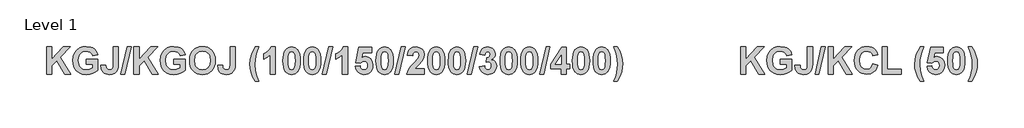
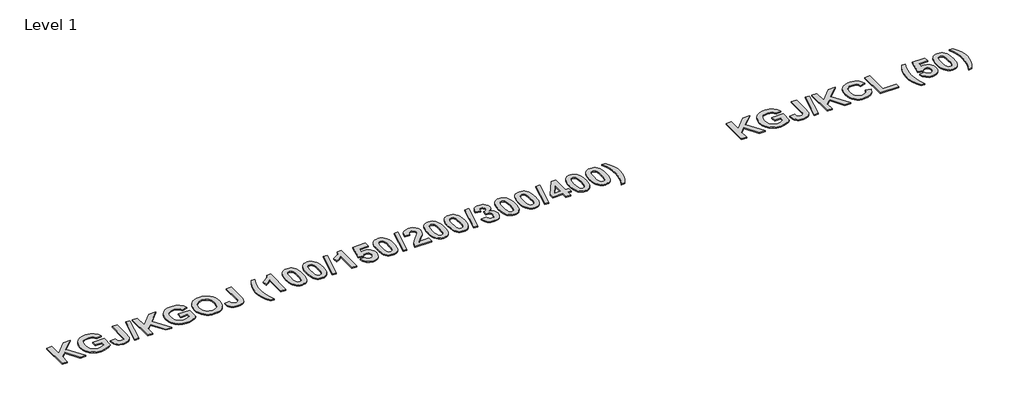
# One storey, part 8 of 42: 2 proxies.
"""IFC4 building model written with IfcOpenShell, lengths in millimetres."""

from ifc_helpers import new_model, si_unit, origin, origin_with_axes, place, context, project, spatial, polyline, outline, extrude, element, save

model = new_model("IFC4")

# Units and contexts
model_context = context("Model", 3, world=origin())
ifc_project = project(units=[si_unit("LENGTHUNIT", "METRE", prefix="MILLI")], contexts=[model_context])

# Site, building, storey
site = spatial("IfcSite", under=ifc_project)
building = spatial("IfcBuilding", under=site)
storey = spatial("IfcBuildingStorey", under=building, Name="Level 1", Elevation=0.0)

# Proxies
placement = place(None, origin())
element("IfcBuildingElementProxy", 1, Name="300mm Arial 2", ObjectType="300mm Arial 2", at=placement, inside=storey, context=model_context, shape_type="SweptSolid", body=[
    extrude(outline(polyline([(-16214.3228423, -1533.7239141), (-16214.3228423, -1278.6590641), (-16165.7390614, -1278.6590641), (-16165.7390614, -1394.9311857), (-16056.299034, -1278.6590641), (-15989.6228554, -1278.6590641), (-16086.157816, -1376.0796665), (-15985.574207, -1533.7239141), (-16042.381805, -1533.7239141), (-16117.7246216, -1408.0260329), (-16165.7390614, -1456.5465537), (-16165.7390614, -1533.7239141), (-16214.3228423, -1533.7239141)])), origin_with_axes(), (0.0, 0.0, 1.0), 10.0),
    extrude(outline(polyline([(-15841.8471884, -1440.6050006), (-15841.8471884, -1396.069868), (-15732.5336812, -1396.069868), (-15732.5336812, -1497.7921594), (-15752.0494318, -1512.7136429), (-15778.7135772, -1525.7215074), (-15809.1417004, -1534.7597987), (-15839.9493844, -1537.7725625), (-15876.7825959, -1533.5815788), (-15908.586627, -1521.0086276), (-15934.2386103, -1500.6467728), (-15952.6156785, -1473.0890781), (-15963.6703865, -1440.565463), (-15967.3552891, -1405.3058472), (-15963.188028, -1367.7846818), (-15950.6862445, -1334.6759105), (-15930.1504243, -1307.3712562), (-15901.8810531, -1287.262442), (-15874.394526, -1277.7734222), (-15840.8982864, -1274.6104157), (-15798.6958712, -1279.7186713), (-15781.479231, -1286.1039908), (-15766.8523025, -1295.0434381), (-15744.9405745, -1319.3827737), (-15732.5336812, -1351.5347355), (-15781.1174622, -1359.6320323), (-15789.2938342, -1342.8285599), (-15802.4361265, -1329.9946607), (-15820.006628, -1321.8578263), (-15841.4676276, -1319.1455482), (-15873.2716587, -1324.4435842), (-15886.4574423, -1331.0661292), (-15897.8324047, -1340.3376922), (-15906.9932625, -1352.2187357), (-15913.5367323, -1366.669722), (-15918.7715082, -1403.281523), (-15913.5683624, -1442.6372323), (-15907.0644301, -1458.0984038), (-15897.9589249, -1470.7484532), (-15886.7421129, -1480.5873805), (-15873.90426, -1487.6151858), (-15843.3654315, -1493.2374299), (-15809.932452, -1487.0695671), (-15781.1174622, -1472.108546), (-15781.1174622, -1440.6050006), (-15841.8471884, -1440.6050006)])), origin_with_axes(), (0.0, 0.0, 1.0), 10.0),
    extrude(outline(polyline([(-15586.7823384, -1278.6590641), (-15538.1985574, -1278.6590641), (-15538.1985574, -1439.9091391), (-15539.6219104, -1467.9017473), (-15543.8919692, -1488.6194403), (-15554.5829315, -1508.641272), (-15571.4733866, -1524.2981545), (-15594.6582247, -1534.4039605), (-15624.2323362, -1537.7725625), (-15658.2030268, -1532.3717288), (-15671.8672152, -1525.6206866), (-15683.317299, -1516.1692276), (-15692.3793128, -1504.1043344), (-15698.8792913, -1489.5129897), (-15704.1931423, -1452.7509458), (-15655.6093614, -1448.7022974), (-15653.3794417, -1467.3324061), (-15648.5874868, -1479.5732416), (-15637.1690331, -1489.8213828), (-15621.0060695, -1493.2374299), (-15605.0249788, -1490.7860999), (-15594.5317045, -1483.4321096), (-15588.7196799, -1468.3761983), (-15586.7823384, -1442.8191052), (-15586.7823384, -1278.6590641)])), origin_with_axes(), (0.0, 0.0, 1.0), 10.0),
    extrude(outline(polyline([(-15514.7923088, -1533.7239141), (-15454.0625826, -1278.6590641), (-15416.739105, -1278.6590641), (-15477.4688312, -1533.7239141), (-15514.7923088, -1533.7239141)])), origin_with_axes(), (0.0, 0.0, 1.0), 10.0),
    extrude(outline(polyline([(-15392.4472146, -1533.7239141), (-15392.4472146, -1278.6590641), (-15343.8634336, -1278.6590641), (-15343.8634336, -1394.9311857), (-15234.4234062, -1278.6590641), (-15167.7472277, -1278.6590641), (-15264.2821883, -1376.0796665), (-15163.6985793, -1533.7239141), (-15220.5061773, -1533.7239141), (-15295.8489938, -1408.0260329), (-15343.8634336, -1456.5465537), (-15343.8634336, -1533.7239141), (-15392.4472146, -1533.7239141)])), origin_with_axes(), (0.0, 0.0, 1.0), 10.0),
    extrude(outline(polyline([(-15019.9715606, -1440.6050006), (-15019.9715606, -1396.069868), (-14910.6580535, -1396.069868), (-14910.6580535, -1497.7921594), (-14930.173804, -1512.7136429), (-14956.8379494, -1525.7215074), (-14987.2660727, -1534.7597987), (-15018.0737567, -1537.7725625), (-15054.9069682, -1533.5815788), (-15086.7109993, -1521.0086276), (-15112.3629826, -1500.6467728), (-15130.7400508, -1473.0890781), (-15141.7947587, -1440.565463), (-15145.4796614, -1405.3058472), (-15141.3124002, -1367.7846818), (-15128.8106168, -1334.6759105), (-15108.2747966, -1307.3712562), (-15080.0054254, -1287.262442), (-15052.5188982, -1277.7734222), (-15019.0226586, -1274.6104157), (-14976.8202435, -1279.7186713), (-14959.6036033, -1286.1039908), (-14944.9766748, -1295.0434381), (-14923.0649468, -1319.3827737), (-14910.6580535, -1351.5347355), (-14959.2418344, -1359.6320323), (-14967.4182064, -1342.8285599), (-14980.5604987, -1329.9946607), (-14998.1310002, -1321.8578263), (-15019.5919998, -1319.1455482), (-15051.3960309, -1324.4435842), (-15064.5818146, -1331.0661292), (-15075.9567769, -1340.3376922), (-15085.1176347, -1352.2187357), (-15091.6611046, -1366.669722), (-15096.8958805, -1403.281523), (-15091.6927346, -1442.6372323), (-15085.1888024, -1458.0984038), (-15076.0832972, -1470.7484532), (-15064.8664851, -1480.5873805), (-15052.0286322, -1487.6151858), (-15021.4898038, -1493.2374299), (-14988.0568243, -1487.0695671), (-14959.2418344, -1472.108546), (-14959.2418344, -1440.6050006), (-15019.9715606, -1440.6050006)])), origin_with_axes(), (0.0, 0.0, 1.0), 10.0),
    extrude(outline(polyline([(-14870.1715693, -1407.7729924), (-14867.3090484, -1371.999388), (-14858.7214856, -1342.4885367), (-14848.6235871, -1324.0561159), (-14835.4101271, -1307.6005742), (-14819.9351175, -1294.1340737), (-14803.0525699, -1284.6687766), (-14777.8434075, -1277.1250059), (-14749.0284176, -1274.6104157), (-14722.7359255, -1276.7909133), (-14699.2110641, -1283.3324063), (-14678.4538335, -1294.2348946), (-14660.4642336, -1309.4983782), (-14645.9341722, -1328.6444523), (-14635.5555569, -1351.1947123), (-14629.3283877, -1377.1491581), (-14627.2526646, -1406.5077897), (-14629.3125726, -1435.6667566), (-14635.4922967, -1461.4650289), (-14645.7918369, -1483.9026068), (-14660.2111931, -1502.9794902), (-14678.0821802, -1518.2014593), (-14698.7366131, -1529.0742944), (-14722.1744918, -1535.5979955), (-14748.3958163, -1537.7725625), (-14774.8939039, -1535.6078799), (-14798.5294705, -1529.113832), (-14819.3025162, -1518.2904189), (-14837.2130409, -1503.1376405), (-14851.6323971, -1484.1892543), (-14861.9319372, -1461.9790175), (-14868.1116613, -1436.5069302), (-14870.1715693, -1407.7729924)]), holes=[polyline([(-14821.5877884, -1406.0017087), (-14816.4241802, -1443.7521921), (-14809.9696699, -1458.7250745), (-14800.9333555, -1471.0963839), (-14777.4875693, -1487.7021684), (-14748.4590764, -1493.2374299), (-14719.4938438, -1487.741706), (-14696.2378379, -1471.2545343), (-14687.3122288, -1458.8891554), (-14680.9367936, -1443.7759147), (-14675.8364455, -1405.3058472), (-14680.8023659, -1367.4130285), (-14687.0097663, -1352.5943427), (-14695.7001268, -1340.5274726), (-14718.8217049, -1324.4910293), (-14748.4590764, -1319.1455482), (-14778.1597082, -1324.5542894), (-14801.4710666, -1340.7805132), (-14810.2721324, -1352.9699497), (-14816.5586079, -1367.9032945), (-14821.5877884, -1406.0017087)])]), origin_with_axes(), (0.0, 0.0, 1.0), 10.0),
    extrude(outline(polyline([(-14489.5986186, -1278.6590641), (-14441.0148376, -1278.6590641), (-14441.0148376, -1439.9091391), (-14442.4381906, -1467.9017473), (-14446.7082495, -1488.6194403), (-14457.3992117, -1508.641272), (-14474.2896668, -1524.2981545), (-14497.4745049, -1534.4039605), (-14527.0486164, -1537.7725625), (-14561.019307, -1532.3717288), (-14574.6834954, -1525.6206866), (-14586.1335792, -1516.1692276), (-14595.195593, -1504.1043344), (-14601.6955715, -1489.5129897), (-14607.0094225, -1452.7509458), (-14558.4256416, -1448.7022974), (-14556.195722, -1467.3324061), (-14551.403767, -1479.5732416), (-14539.9853133, -1489.8213828), (-14523.8223497, -1493.2374299), (-14507.841259, -1490.7860999), (-14497.3479847, -1483.4321096), (-14491.5359601, -1468.3761983), (-14489.5986186, -1442.8191052), (-14489.5986186, -1278.6590641)])), origin_with_axes(), (0.0, 0.0, 1.0), 10.0),
    extrude(outline(polyline([(-14218.3391749, -1602.5509371), (-14250.7283622, -1602.5509371), (-14273.3992118, -1562.8789271), (-14289.9180137, -1521.672859), (-14300.0000971, -1480.3719007), (-14303.3607916, -1440.4152202), (-14299.2488831, -1393.0175667), (-14286.9131574, -1348.2452087), (-14270.7185638, -1311.9655233), (-14250.7283622, -1278.6590641), (-14218.3391749, -1278.6590641), (-14235.9017689, -1325.8985672), (-14246.9643844, -1365.5152246), (-14252.8238541, -1402.3958812), (-14254.7770106, -1441.4273823), (-14250.0957609, -1498.07683), (-14237.2539542, -1553.1447744), (-14218.3391749, -1602.5509371)])), origin_with_axes(), (0.0, 0.0, 1.0), 10.0),
    extrude(outline(polyline([(-14064.4905353, -1533.7239141), (-14113.0743162, -1533.7239141), (-14113.0743162, -1351.4082152), (-14141.1301845, -1375.2889149), (-14173.8040424, -1392.0212196), (-14173.8040424, -1343.4374387), (-14154.3357369, -1334.3517023), (-14133.2542981, -1319.6199992), (-14114.7981548, -1300.6024222), (-14103.2057357, -1278.6590641), (-14064.4905353, -1278.6590641), (-14064.4905353, -1533.7239141)])), origin_with_axes(), (0.0, 0.0, 1.0), 10.0),
    extrude(outline(polyline([(-13910.6418956, -1278.6590641), (-13893.5102612, -1280.3038275), (-13878.3634135, -1285.2381178), (-13865.2013524, -1293.4619348), (-13854.0240779, -1304.9752788), (-13843.3686995, -1323.1032602), (-13835.757715, -1346.3632198), (-13831.1911242, -1374.7551575), (-13829.6689273, -1408.2790734), (-13831.1990318, -1441.7713593), (-13835.789345, -1470.1949271), (-13843.4398672, -1493.5497768), (-13854.1505982, -1511.8359086), (-13865.2725201, -1523.1831947), (-13878.3950436, -1531.288399), (-13893.5181687, -1536.1515216), (-13910.6418956, -1537.7725625), (-13927.9494722, -1535.9933713), (-13943.4976264, -1530.6557977), (-13957.2863581, -1521.7598417), (-13969.3156675, -1509.3055033), (-13979.0715659, -1492.2845742), (-13986.0400647, -1469.688846), (-13990.2211641, -1441.5183187), (-13991.6148638, -1407.7729924), (-13990.0847594, -1374.4467644), (-13985.4944461, -1346.1418093), (-13977.843924, -1322.8581272), (-13967.133193, -1304.595718), (-13956.0112711, -1293.2484319), (-13942.8887476, -1285.1432276), (-13927.7656224, -1280.2801049), (-13910.6418956, -1278.6590641)]), holes=[polyline([(-13910.6418956, -1323.1941966), (-13926.8364892, -1328.5396777), (-13933.1625024, -1336.0122808), (-13937.8437521, -1347.7391276), (-13941.7342502, -1371.8886828), (-13943.0310829, -1408.2790734), (-13941.8765855, -1444.1871055), (-13938.4130933, -1466.7630649), (-13933.1862249, -1480.0160625), (-13926.741599, -1487.955209), (-13910.6418956, -1493.2374299), (-13894.4473019, -1487.8919488), (-13888.1212888, -1480.4193458), (-13883.4400391, -1468.6924989), (-13879.549541, -1444.669464), (-13878.2527083, -1408.2790734), (-13879.4072057, -1372.4105789), (-13882.8706979, -1349.826712), (-13888.0975662, -1336.5341768), (-13894.5421921, -1328.5396777), (-13910.6418956, -1323.1941966)])]), origin_with_axes(), (0.0, 0.0, 1.0), 10.0),
    extrude(outline(polyline([(-13716.3067718, -1278.6590641), (-13699.1751374, -1280.3038275), (-13684.0282897, -1285.2381178), (-13670.8662286, -1293.4619348), (-13659.6889541, -1304.9752788), (-13649.0335757, -1323.1032602), (-13641.4225912, -1346.3632198), (-13636.8560004, -1374.7551575), (-13635.3338035, -1408.2790734), (-13636.863908, -1441.7713593), (-13641.4542212, -1470.1949271), (-13649.1047434, -1493.5497768), (-13659.8154744, -1511.8359086), (-13670.9373963, -1523.1831947), (-13684.0599198, -1531.288399), (-13699.1830449, -1536.1515216), (-13716.3067718, -1537.7725625), (-13733.6143484, -1535.9933713), (-13749.1625025, -1530.6557977), (-13762.9512343, -1521.7598417), (-13774.9805437, -1509.3055033), (-13784.7364421, -1492.2845742), (-13791.7049409, -1469.688846), (-13795.8860403, -1441.5183187), (-13797.27974, -1407.7729924), (-13795.7496356, -1374.4467644), (-13791.1593223, -1346.1418093), (-13783.5088002, -1322.8581272), (-13772.7980692, -1304.595718), (-13761.6761473, -1293.2484319), (-13748.5536238, -1285.1432276), (-13733.4304986, -1280.2801049), (-13716.3067718, -1278.6590641)]), holes=[polyline([(-13716.3067718, -1323.1941966), (-13732.5013654, -1328.5396777), (-13738.8273786, -1336.0122808), (-13743.5086283, -1347.7391276), (-13747.3991264, -1371.8886828), (-13748.6959591, -1408.2790734), (-13747.5414617, -1444.1871055), (-13744.0779695, -1466.7630649), (-13738.8511011, -1480.0160625), (-13732.4064752, -1487.955209), (-13716.3067718, -1493.2374299), (-13700.1121781, -1487.8919488), (-13693.786165, -1480.4193458), (-13689.1049153, -1468.6924989), (-13685.2144172, -1444.669464), (-13683.9175845, -1408.2790734), (-13685.0720819, -1372.4105789), (-13688.5355741, -1349.826712), (-13693.7624424, -1336.5341768), (-13700.2070683, -1328.5396777), (-13716.3067718, -1323.1941966)])]), origin_with_axes(), (0.0, 0.0, 1.0), 10.0),
    extrude(outline(polyline([(-13620.0248517, -1533.7239141), (-13559.2951255, -1278.6590641), (-13521.971648, -1278.6590641), (-13582.7013742, -1533.7239141), (-13620.0248517, -1533.7239141)])), origin_with_axes(), (0.0, 0.0, 1.0), 10.0),
    extrude(outline(polyline([(-13384.317602, -1533.7239141), (-13432.9013829, -1533.7239141), (-13432.9013829, -1351.4082152), (-13460.9572512, -1375.2889149), (-13493.6311091, -1392.0212196), (-13493.6311091, -1343.4374387), (-13474.1628036, -1334.3517023), (-13453.0813648, -1319.6199992), (-13434.6252215, -1300.6024222), (-13423.0328024, -1278.6590641), (-13384.317602, -1278.6590641), (-13384.317602, -1533.7239141)])), origin_with_axes(), (0.0, 0.0, 1.0), 10.0),
    extrude(outline(polyline([(-13311.4419305, -1461.9236649), (-13266.906798, -1456.7995942), (-13262.7632594, -1471.8713205), (-13254.5078122, -1483.4321096), (-13243.4056592, -1490.7860999), (-13230.7220028, -1493.2374299), (-13216.5280108, -1490.635857), (-13204.6904587, -1482.8311383), (-13196.6959596, -1469.7916437), (-13194.0311266, -1451.4857432), (-13196.5061792, -1434.3264325), (-13203.9313371, -1422.0697821), (-13215.3260683, -1414.7157918), (-13229.7098407, -1412.2644617), (-13248.5297298, -1417.3252722), (-13265.2620346, -1432.5077038), (-13307.3932821, -1426.2449507), (-13279.0527432, -1282.7077125), (-13157.5932909, -1282.7077125), (-13157.5932909, -1331.2914934), (-13239.7682016, -1331.2914934), (-13249.573522, -1377.6611698), (-13234.0906048, -1370.2122893), (-13218.2597569, -1367.7293292), (-13190.1406285, -1373.4780936), (-13166.6394896, -1390.7243869), (-13150.7453816, -1417.1433993), (-13145.4473456, -1450.410321), (-13149.8597398, -1479.3360161), (-13163.0969223, -1505.0038144), (-13176.314336, -1519.3401417), (-13191.8644671, -1529.5803755), (-13209.7473155, -1535.7245157), (-13229.9628812, -1537.7725625), (-13260.9682531, -1532.6326768), (-13285.663427, -1517.2130198), (-13302.8780902, -1493.1109097), (-13311.4419305, -1461.9236649)])), origin_with_axes(), (0.0, 0.0, 1.0), 10.0),
    extrude(outline(polyline([(-13036.1338385, -1278.6590641), (-13019.0022041, -1280.3038275), (-13003.8553564, -1285.2381178), (-12990.6932953, -1293.4619348), (-12979.5160208, -1304.9752788), (-12968.8606424, -1323.1032602), (-12961.2496579, -1346.3632198), (-12956.6830671, -1374.7551575), (-12955.1608702, -1408.2790734), (-12956.6909747, -1441.7713593), (-12961.2812879, -1470.1949271), (-12968.9318101, -1493.5497768), (-12979.6425411, -1511.8359086), (-12990.764463, -1523.1831947), (-13003.8869865, -1531.288399), (-13019.0101116, -1536.1515216), (-13036.1338385, -1537.7725625), (-13053.4414151, -1535.9933713), (-13068.9895692, -1530.6557977), (-13082.778301, -1521.7598417), (-13094.8076104, -1509.3055033), (-13104.5635088, -1492.2845742), (-13111.5320076, -1469.688846), (-13115.713107, -1441.5183187), (-13117.1068067, -1407.7729924), (-13115.5767023, -1374.4467644), (-13110.986389, -1346.1418093), (-13103.3358669, -1322.8581272), (-13092.6251359, -1304.595718), (-13081.503214, -1293.2484319), (-13068.3806905, -1285.1432276), (-13053.2575653, -1280.2801049), (-13036.1338385, -1278.6590641)]), holes=[polyline([(-13036.1338385, -1323.1941966), (-13052.3284321, -1328.5396777), (-13058.6544453, -1336.0122808), (-13063.335695, -1347.7391276), (-13067.2261931, -1371.8886828), (-13068.5230258, -1408.2790734), (-13067.3685284, -1444.1871055), (-13063.9050362, -1466.7630649), (-13058.6781678, -1480.0160625), (-13052.2335419, -1487.955209), (-13036.1338385, -1493.2374299), (-13019.9392448, -1487.8919488), (-13013.6132317, -1480.4193458), (-13008.931982, -1468.6924989), (-13005.0414839, -1444.669464), (-13003.7446512, -1408.2790734), (-13004.8991486, -1372.4105789), (-13008.3626408, -1349.826712), (-13013.5895091, -1336.5341768), (-13020.034135, -1328.5396777), (-13036.1338385, -1323.1941966)])]), origin_with_axes(), (0.0, 0.0, 1.0), 10.0),
    extrude(outline(polyline([(-12939.8519184, -1533.7239141), (-12879.1221922, -1278.6590641), (-12841.7987147, -1278.6590641), (-12902.5284409, -1533.7239141), (-12939.8519184, -1533.7239141)])), origin_with_axes(), (0.0, 0.0, 1.0), 10.0),
    extrude(outline(polyline([(-12663.6581845, -1485.1401331), (-12663.6581845, -1533.7239141), (-12825.604121, -1533.7239141), (-12820.4326053, -1509.2185207), (-12810.1053888, -1486.057405), (-12790.921754, -1459.8756181), (-12759.180983, -1426.3082109), (-12721.6044649, -1385.5686862), (-12714.5825903, -1370.8607057), (-12712.2419655, -1356.3425055), (-12714.2109371, -1342.1959586), (-12720.1178518, -1331.7659444), (-12729.4882588, -1325.3371336), (-12741.847707, -1323.1941966), (-12754.1201725, -1325.3055035), (-12763.6091922, -1331.6394242), (-12769.9984655, -1342.86019), (-12772.9716917, -1359.6320323), (-12821.5554726, -1355.2038231), (-12812.9520947, -1320.0549126), (-12805.3292489, -1306.8157532), (-12795.4922985, -1296.4667911), (-12770.8682923, -1283.1109958), (-12740.7722848, -1278.6590641), (-12708.636138, -1283.6487069), (-12684.2177272, -1298.6176356), (-12668.7980702, -1321.0038146), (-12663.6581845, -1348.2452087), (-12669.2883362, -1380.3813554), (-12687.1276933, -1412.3277218), (-12717.3344061, -1444.2108281), (-12745.0739737, -1471.8555055), (-12754.1834326, -1485.1401331), (-12663.6581845, -1485.1401331)])), origin_with_axes(), (0.0, 0.0, 1.0), 10.0),
    extrude(outline(polyline([(-12550.296029, -1278.6590641), (-12533.1643946, -1280.3038275), (-12518.0175469, -1285.2381178), (-12504.8554858, -1293.4619348), (-12493.6782113, -1304.9752788), (-12483.0228329, -1323.1032602), (-12475.4118484, -1346.3632198), (-12470.8452576, -1374.7551575), (-12469.3230607, -1408.2790734), (-12470.8531652, -1441.7713593), (-12475.4434784, -1470.1949271), (-12483.0940006, -1493.5497768), (-12493.8047316, -1511.8359086), (-12504.9266534, -1523.1831947), (-12518.049177, -1531.288399), (-12533.1723021, -1536.1515216), (-12550.296029, -1537.7725625), (-12567.6036056, -1535.9933713), (-12583.1517597, -1530.6557977), (-12596.9404915, -1521.7598417), (-12608.9698009, -1509.3055033), (-12618.7256993, -1492.2845742), (-12625.6941981, -1469.688846), (-12629.8752975, -1441.5183187), (-12631.2689972, -1407.7729924), (-12629.7388928, -1374.4467644), (-12625.1485795, -1346.1418093), (-12617.4980574, -1322.8581272), (-12606.7873264, -1304.595718), (-12595.6654045, -1293.2484319), (-12582.542881, -1285.1432276), (-12567.4197558, -1280.2801049), (-12550.296029, -1278.6590641)]), holes=[polyline([(-12550.296029, -1323.1941966), (-12566.4906226, -1328.5396777), (-12572.8166358, -1336.0122808), (-12577.4978855, -1347.7391276), (-12581.3883836, -1371.8886828), (-12582.6852163, -1408.2790734), (-12581.5307189, -1444.1871055), (-12578.0672267, -1466.7630649), (-12572.8403583, -1480.0160625), (-12566.3957324, -1487.955209), (-12550.296029, -1493.2374299), (-12534.1014353, -1487.8919488), (-12527.7754222, -1480.4193458), (-12523.0941724, -1468.6924989), (-12519.2036744, -1444.669464), (-12517.9068417, -1408.2790734), (-12519.0613391, -1372.4105789), (-12522.5248313, -1349.826712), (-12527.7516996, -1336.5341768), (-12534.1963255, -1328.5396777), (-12550.296029, -1323.1941966)])]), origin_with_axes(), (0.0, 0.0, 1.0), 10.0),
    extrude(outline(polyline([(-12355.9609052, -1278.6590641), (-12338.8292708, -1280.3038275), (-12323.6824231, -1285.2381178), (-12310.520362, -1293.4619348), (-12299.3430875, -1304.9752788), (-12288.6877091, -1323.1032602), (-12281.0767246, -1346.3632198), (-12276.5101338, -1374.7551575), (-12274.9879369, -1408.2790734), (-12276.5180413, -1441.7713593), (-12281.1083546, -1470.1949271), (-12288.7588768, -1493.5497768), (-12299.4696078, -1511.8359086), (-12310.5915296, -1523.1831947), (-12323.7140532, -1531.288399), (-12338.8371783, -1536.1515216), (-12355.9609052, -1537.7725625), (-12373.2684818, -1535.9933713), (-12388.8166359, -1530.6557977), (-12402.6053677, -1521.7598417), (-12414.6346771, -1509.3055033), (-12424.3905755, -1492.2845742), (-12431.3590743, -1469.688846), (-12435.5401736, -1441.5183187), (-12436.9338734, -1407.7729924), (-12435.403769, -1374.4467644), (-12430.8134557, -1346.1418093), (-12423.1629336, -1322.8581272), (-12412.4522026, -1304.595718), (-12401.3302807, -1293.2484319), (-12388.2077572, -1285.1432276), (-12373.084632, -1280.2801049), (-12355.9609052, -1278.6590641)]), holes=[polyline([(-12355.9609052, -1323.1941966), (-12372.1554988, -1328.5396777), (-12378.481512, -1336.0122808), (-12383.1627617, -1347.7391276), (-12387.0532598, -1371.8886828), (-12388.3500925, -1408.2790734), (-12387.1955951, -1444.1871055), (-12383.7321029, -1466.7630649), (-12378.5052345, -1480.0160625), (-12372.0606086, -1487.955209), (-12355.9609052, -1493.2374299), (-12339.7663115, -1487.8919488), (-12333.4402984, -1480.4193458), (-12328.7590486, -1468.6924989), (-12324.8685506, -1444.669464), (-12323.5717179, -1408.2790734), (-12324.7262153, -1372.4105789), (-12328.1897075, -1349.826712), (-12333.4165758, -1336.5341768), (-12339.8612017, -1328.5396777), (-12355.9609052, -1323.1941966)])]), origin_with_axes(), (0.0, 0.0, 1.0), 10.0),
    extrude(outline(polyline([(-12259.6789851, -1533.7239141), (-12198.9492589, -1278.6590641), (-12161.6257814, -1278.6590641), (-12222.3555076, -1533.7239141), (-12259.6789851, -1533.7239141)])), origin_with_axes(), (0.0, 0.0, 1.0), 10.0),
    extrude(outline(polyline([(-12145.4311877, -1462.4297459), (-12096.8474068, -1456.7995942), (-12093.099244, -1472.4248467), (-12085.903404, -1483.8749305), (-12076.0506386, -1490.8968051), (-12064.3316992, -1493.2374299), (-12051.7587481, -1490.5567819), (-12041.3682715, -1482.5148377), (-12034.393842, -1469.933979), (-12032.0690322, -1453.6365877), (-12034.1961541, -1438.2169306), (-12040.5775198, -1426.371471), (-12050.027002, -1418.8277003), (-12061.358473, -1416.3131101), (-12080.6528131, -1419.9189376), (-12076.4143843, -1379.8752744), (-12062.5841381, -1378.1356208), (-12052.4704246, -1371.9044978), (-12046.2788392, -1362.0359173), (-12044.2149774, -1349.383891), (-12045.7569431, -1338.6375762), (-12050.3828402, -1330.3109614), (-12057.5707727, -1324.9733878), (-12066.7988443, -1323.1941966), (-12076.1850663, -1325.2580584), (-12084.1004903, -1331.4496438), (-12089.8650698, -1341.6108024), (-12092.7987584, -1355.5833839), (-12141.3825393, -1348.3084688), (-12135.8235553, -1326.5707061), (-12128.0030215, -1309.6881586), (-12117.2804292, -1296.7751842), (-12103.0152696, -1286.9461413), (-12086.0220168, -1280.7308334), (-12067.115145, -1278.6590641), (-12036.4656113, -1284.399921), (-12023.6791572, -1291.5759922), (-12012.5849117, -1301.6224918), (-11999.8696253, -1321.6443234), (-11995.6311965, -1344.1333001), (-11997.9046074, -1360.078807), (-12004.7248404, -1374.3241979), (-12016.0918952, -1386.8694727), (-12032.005772, -1397.7146315), (-12012.1420908, -1405.2663097), (-11996.7066187, -1418.5588448), (-11986.7905931, -1436.4219244), (-11983.4852512, -1457.6852361), (-11989.3447209, -1488.4533825), (-12006.9231299, -1514.3346838), (-12019.3596764, -1524.5887557), (-12033.2314371, -1531.9130928), (-12065.2806012, -1537.7725625), (-12095.5426666, -1532.5615092), (-12120.1587652, -1516.9283492), (-12137.3734285, -1492.8815917), (-12145.4311877, -1462.4297459)])), origin_with_axes(), (0.0, 0.0, 1.0), 10.0),
    extrude(outline(polyline([(-11870.1230957, -1278.6590641), (-11852.9914613, -1280.3038275), (-11837.8446136, -1285.2381178), (-11824.6825525, -1293.4619348), (-11813.505278, -1304.9752788), (-11802.8498996, -1323.1032602), (-11795.2389151, -1346.3632198), (-11790.6723243, -1374.7551575), (-11789.1501274, -1408.2790734), (-11790.6802318, -1441.7713593), (-11795.2705451, -1470.1949271), (-11802.9210673, -1493.5497768), (-11813.6317983, -1511.8359086), (-11824.7537201, -1523.1831947), (-11837.8762437, -1531.288399), (-11852.9993688, -1536.1515216), (-11870.1230957, -1537.7725625), (-11887.4306723, -1535.9933713), (-11902.9788264, -1530.6557977), (-11916.7675582, -1521.7598417), (-11928.7968676, -1509.3055033), (-11938.552766, -1492.2845742), (-11945.5212648, -1469.688846), (-11949.7023641, -1441.5183187), (-11951.0960639, -1407.7729924), (-11949.5659595, -1374.4467644), (-11944.9756462, -1346.1418093), (-11937.3251241, -1322.8581272), (-11926.614393, -1304.595718), (-11915.4924712, -1293.2484319), (-11902.3699477, -1285.1432276), (-11887.2468225, -1280.2801049), (-11870.1230957, -1278.6590641)]), holes=[polyline([(-11870.1230957, -1323.1941966), (-11886.3176893, -1328.5396777), (-11892.6437025, -1336.0122808), (-11897.3249522, -1347.7391276), (-11901.2154503, -1371.8886828), (-11902.512283, -1408.2790734), (-11901.3577856, -1444.1871055), (-11897.8942934, -1466.7630649), (-11892.667425, -1480.0160625), (-11886.2227991, -1487.955209), (-11870.1230957, -1493.2374299), (-11853.928502, -1487.8919488), (-11847.6024889, -1480.4193458), (-11842.9212391, -1468.6924989), (-11839.0307411, -1444.669464), (-11837.7339084, -1408.2790734), (-11838.8884058, -1372.4105789), (-11842.351898, -1349.826712), (-11847.5787663, -1336.5341768), (-11854.0233922, -1328.5396777), (-11870.1230957, -1323.1941966)])]), origin_with_axes(), (0.0, 0.0, 1.0), 10.0),
    extrude(outline(polyline([(-11675.7879719, -1278.6590641), (-11658.6563375, -1280.3038275), (-11643.5094898, -1285.2381178), (-11630.3474287, -1293.4619348), (-11619.1701542, -1304.9752788), (-11608.5147758, -1323.1032602), (-11600.9037913, -1346.3632198), (-11596.3372005, -1374.7551575), (-11594.8150036, -1408.2790734), (-11596.345108, -1441.7713593), (-11600.9354213, -1470.1949271), (-11608.5859435, -1493.5497768), (-11619.2966745, -1511.8359086), (-11630.4185963, -1523.1831947), (-11643.5411199, -1531.288399), (-11658.664245, -1536.1515216), (-11675.7879719, -1537.7725625), (-11693.0955485, -1535.9933713), (-11708.6437026, -1530.6557977), (-11722.4324344, -1521.7598417), (-11734.4617438, -1509.3055033), (-11744.2176422, -1492.2845742), (-11751.186141, -1469.688846), (-11755.3672403, -1441.5183187), (-11756.7609401, -1407.7729924), (-11755.2308357, -1374.4467644), (-11750.6405224, -1346.1418093), (-11742.9900003, -1322.8581272), (-11732.2792692, -1304.595718), (-11721.1573474, -1293.2484319), (-11708.0348239, -1285.1432276), (-11692.9116987, -1280.2801049), (-11675.7879719, -1278.6590641)]), holes=[polyline([(-11675.7879719, -1323.1941966), (-11691.9825655, -1328.5396777), (-11698.3085787, -1336.0122808), (-11702.9898284, -1347.7391276), (-11706.8803265, -1371.8886828), (-11708.1771592, -1408.2790734), (-11707.0226618, -1444.1871055), (-11703.5591696, -1466.7630649), (-11698.3323012, -1480.0160625), (-11691.8876753, -1487.955209), (-11675.7879719, -1493.2374299), (-11659.5933782, -1487.8919488), (-11653.2673651, -1480.4193458), (-11648.5861153, -1468.6924989), (-11644.6956173, -1444.669464), (-11643.3987846, -1408.2790734), (-11644.553282, -1372.4105789), (-11648.0167742, -1349.826712), (-11653.2436425, -1336.5341768), (-11659.6882684, -1328.5396777), (-11675.7879719, -1323.1941966)])]), origin_with_axes(), (0.0, 0.0, 1.0), 10.0),
    extrude(outline(polyline([(-11579.5060518, -1533.7239141), (-11518.7763256, -1278.6590641), (-11481.4528481, -1278.6590641), (-11542.1825743, -1533.7239141), (-11579.5060518, -1533.7239141)])), origin_with_axes(), (0.0, 0.0, 1.0), 10.0),
    extrude(outline(polyline([(-11376.1879893, -1533.7239141), (-11376.1879893, -1481.0914847), (-11473.3555512, -1481.0914847), (-11473.3555512, -1440.794781), (-11369.7354559, -1282.7077125), (-11327.6042084, -1282.7077125), (-11327.6042084, -1440.6050006), (-11295.2150211, -1440.6050006), (-11295.2150211, -1481.0914847), (-11327.6042084, -1481.0914847), (-11327.6042084, -1533.7239141), (-11376.1879893, -1533.7239141)]), holes=[polyline([(-11376.1879893, -1440.6050006), (-11376.1879893, -1357.7342284), (-11430.4651821, -1440.6050006), (-11376.1879893, -1440.6050006)])]), origin_with_axes(), (0.0, 0.0, 1.0), 10.0),
    extrude(outline(polyline([(-11189.9501624, -1278.6590641), (-11172.818528, -1280.3038275), (-11157.6716803, -1285.2381178), (-11144.5096192, -1293.4619348), (-11133.3323447, -1304.9752788), (-11122.6769663, -1323.1032602), (-11115.0659818, -1346.3632198), (-11110.499391, -1374.7551575), (-11108.9771941, -1408.2790734), (-11110.5072985, -1441.7713593), (-11115.0976118, -1470.1949271), (-11122.748134, -1493.5497768), (-11133.458865, -1511.8359086), (-11144.5807868, -1523.1831947), (-11157.7033104, -1531.288399), (-11172.8264355, -1536.1515216), (-11189.9501624, -1537.7725625), (-11207.2577389, -1535.9933713), (-11222.8058931, -1530.6557977), (-11236.5946249, -1521.7598417), (-11248.6239343, -1509.3055033), (-11258.3798327, -1492.2845742), (-11265.3483315, -1469.688846), (-11269.5294308, -1441.5183187), (-11270.9231306, -1407.7729924), (-11269.3930262, -1374.4467644), (-11264.8027129, -1346.1418093), (-11257.1521907, -1322.8581272), (-11246.4414597, -1304.595718), (-11235.3195379, -1293.2484319), (-11222.1970144, -1285.1432276), (-11207.0738892, -1280.2801049), (-11189.9501624, -1278.6590641)]), holes=[polyline([(-11189.9501624, -1323.1941966), (-11206.144756, -1328.5396777), (-11212.4707692, -1336.0122808), (-11217.1520189, -1347.7391276), (-11221.042517, -1371.8886828), (-11222.3393497, -1408.2790734), (-11221.1848523, -1444.1871055), (-11217.7213601, -1466.7630649), (-11212.4944917, -1480.0160625), (-11206.0498658, -1487.955209), (-11189.9501624, -1493.2374299), (-11173.7555687, -1487.8919488), (-11167.4295556, -1480.4193458), (-11162.7483058, -1468.6924989), (-11158.8578078, -1444.669464), (-11157.5609751, -1408.2790734), (-11158.7154725, -1372.4105789), (-11162.1789647, -1349.826712), (-11167.405833, -1336.5341768), (-11173.8504589, -1328.5396777), (-11189.9501624, -1323.1941966)])]), origin_with_axes(), (0.0, 0.0, 1.0), 10.0),
    extrude(outline(polyline([(-10995.6150386, -1278.6590641), (-10978.4834042, -1280.3038275), (-10963.3365565, -1285.2381178), (-10950.1744954, -1293.4619348), (-10938.9972209, -1304.9752788), (-10928.3418425, -1323.1032602), (-10920.730858, -1346.3632198), (-10916.1642672, -1374.7551575), (-10914.6420703, -1408.2790734), (-10916.1721747, -1441.7713593), (-10920.762488, -1470.1949271), (-10928.4130102, -1493.5497768), (-10939.1237412, -1511.8359086), (-10950.245663, -1523.1831947), (-10963.3681866, -1531.288399), (-10978.4913117, -1536.1515216), (-10995.6150386, -1537.7725625), (-11012.9226151, -1535.9933713), (-11028.4707693, -1530.6557977), (-11042.2595011, -1521.7598417), (-11054.2888105, -1509.3055033), (-11064.0447089, -1492.2845742), (-11071.0132077, -1469.688846), (-11075.194307, -1441.5183187), (-11076.5880068, -1407.7729924), (-11075.0579024, -1374.4467644), (-11070.4675891, -1346.1418093), (-11062.8170669, -1322.8581272), (-11052.1063359, -1304.595718), (-11040.9844141, -1293.2484319), (-11027.8618906, -1285.1432276), (-11012.7387654, -1280.2801049), (-10995.6150386, -1278.6590641)]), holes=[polyline([(-10995.6150386, -1323.1941966), (-11011.8096322, -1328.5396777), (-11018.1356454, -1336.0122808), (-11022.8168951, -1347.7391276), (-11026.7073932, -1371.8886828), (-11028.0042259, -1408.2790734), (-11026.8497285, -1444.1871055), (-11023.3862363, -1466.7630649), (-11018.1593679, -1480.0160625), (-11011.714742, -1487.955209), (-10995.6150386, -1493.2374299), (-10979.4204449, -1487.8919488), (-10973.0944318, -1480.4193458), (-10968.413182, -1468.6924989), (-10964.522684, -1444.669464), (-10963.2258513, -1408.2790734), (-10964.3803487, -1372.4105789), (-10967.8438409, -1349.826712), (-10973.0707092, -1336.5341768), (-10979.5153351, -1328.5396777), (-10995.6150386, -1323.1941966)])]), origin_with_axes(), (0.0, 0.0, 1.0), 10.0),
    extrude(outline(polyline([(-10882.252883, -1602.5509371), (-10864.2553756, -1556.5608215), (-10854.5765755, -1519.6485348), (-10847.9658918, -1479.9528023), (-10845.8150473, -1441.4273823), (-10847.7602963, -1402.3958812), (-10853.5960435, -1365.5152246), (-10864.6507514, -1325.8985672), (-10882.252883, -1278.6590641), (-10849.8636957, -1278.6590641), (-10827.6672971, -1315.9983567), (-10811.0536051, -1355.5201238), (-10800.686851, -1396.4177988), (-10797.2312663, -1437.8848149), (-10799.9988971, -1474.3859108), (-10808.3017893, -1513.4174119), (-10825.0182791, -1558.2846601), (-10849.8636957, -1602.5509371), (-10882.252883, -1602.5509371)])), origin_with_axes(), (0.0, 0.0, 1.0), 10.0),
])
element("IfcBuildingElementProxy", 2, Name="300mm Arial 2", ObjectType="300mm Arial 2", at=placement, inside=storey, context=model_context, shape_type="SweptSolid", body=[
    extrude(outline(polyline([(-9689.3228423, -1533.7239141), (-9689.3228423, -1278.6590641), (-9640.7390614, -1278.6590641), (-9640.7390614, -1394.9311857), (-9531.299034, -1278.6590641), (-9464.6228554, -1278.6590641), (-9561.157816, -1376.0796665), (-9460.574207, -1533.7239141), (-9517.381805, -1533.7239141), (-9592.7246216, -1408.0260329), (-9640.7390614, -1456.5465537), (-9640.7390614, -1533.7239141), (-9689.3228423, -1533.7239141)])), origin_with_axes(), (0.0, 0.0, 1.0), 10.0),
    extrude(outline(polyline([(-9316.8471884, -1440.6050006), (-9316.8471884, -1396.069868), (-9207.5336812, -1396.069868), (-9207.5336812, -1497.7921594), (-9227.0494318, -1512.7136429), (-9253.7135772, -1525.7215074), (-9284.1417004, -1534.7597987), (-9314.9493844, -1537.7725625), (-9351.7825959, -1533.5815788), (-9383.586627, -1521.0086276), (-9409.2386103, -1500.6467728), (-9427.6156785, -1473.0890781), (-9438.6703865, -1440.565463), (-9442.3552891, -1405.3058472), (-9438.188028, -1367.7846818), (-9425.6862445, -1334.6759105), (-9405.1504243, -1307.3712562), (-9376.8810531, -1287.262442), (-9349.394526, -1277.7734222), (-9315.8982864, -1274.6104157), (-9273.6958712, -1279.7186713), (-9256.479231, -1286.1039908), (-9241.8523025, -1295.0434381), (-9219.9405745, -1319.3827737), (-9207.5336812, -1351.5347355), (-9256.1174622, -1359.6320323), (-9264.2938342, -1342.8285599), (-9277.4361265, -1329.9946607), (-9295.006628, -1321.8578263), (-9316.4676276, -1319.1455482), (-9348.2716587, -1324.4435842), (-9361.4574423, -1331.0661292), (-9372.8324047, -1340.3376922), (-9381.9932625, -1352.2187357), (-9388.5367323, -1366.669722), (-9393.7715082, -1403.281523), (-9388.5683624, -1442.6372323), (-9382.0644301, -1458.0984038), (-9372.9589249, -1470.7484532), (-9361.7421129, -1480.5873805), (-9348.90426, -1487.6151858), (-9318.3654315, -1493.2374299), (-9284.932452, -1487.0695671), (-9256.1174622, -1472.108546), (-9256.1174622, -1440.6050006), (-9316.8471884, -1440.6050006)])), origin_with_axes(), (0.0, 0.0, 1.0), 10.0),
    extrude(outline(polyline([(-9061.7823384, -1278.6590641), (-9013.1985574, -1278.6590641), (-9013.1985574, -1439.9091391), (-9014.6219104, -1467.9017473), (-9018.8919692, -1488.6194403), (-9029.5829315, -1508.641272), (-9046.4733866, -1524.2981545), (-9069.6582247, -1534.4039605), (-9099.2323362, -1537.7725625), (-9133.2030268, -1532.3717288), (-9146.8672152, -1525.6206866), (-9158.317299, -1516.1692276), (-9167.3793128, -1504.1043344), (-9173.8792913, -1489.5129897), (-9179.1931423, -1452.7509458), (-9130.6093614, -1448.7022974), (-9128.3794417, -1467.3324061), (-9123.5874868, -1479.5732416), (-9112.1690331, -1489.8213828), (-9096.0060695, -1493.2374299), (-9080.0249788, -1490.7860999), (-9069.5317045, -1483.4321096), (-9063.7196799, -1468.3761983), (-9061.7823384, -1442.8191052), (-9061.7823384, -1278.6590641)])), origin_with_axes(), (0.0, 0.0, 1.0), 10.0),
    extrude(outline(polyline([(-8989.7923088, -1533.7239141), (-8929.0625826, -1278.6590641), (-8891.739105, -1278.6590641), (-8952.4688312, -1533.7239141), (-8989.7923088, -1533.7239141)])), origin_with_axes(), (0.0, 0.0, 1.0), 10.0),
    extrude(outline(polyline([(-8867.4472146, -1533.7239141), (-8867.4472146, -1278.6590641), (-8818.8634336, -1278.6590641), (-8818.8634336, -1394.9311857), (-8709.4234062, -1278.6590641), (-8642.7472277, -1278.6590641), (-8739.2821883, -1376.0796665), (-8638.6985793, -1533.7239141), (-8695.5061773, -1533.7239141), (-8770.8489938, -1408.0260329), (-8818.8634336, -1456.5465537), (-8818.8634336, -1533.7239141), (-8867.4472146, -1533.7239141)])), origin_with_axes(), (0.0, 0.0, 1.0), 10.0),
    extrude(outline(polyline([(-8446.3877797, -1436.5563522), (-8397.8039987, -1452.7509458), (-8413.1287656, -1488.5324577), (-8423.6497162, -1502.4674785), (-8436.0763782, -1513.7653426), (-8466.4412413, -1528.7342712), (-8504.0177594, -1533.7239141), (-8528.3452337, -1531.5928384), (-8550.4032508, -1525.1996114), (-8570.1918107, -1514.544233), (-8587.7109133, -1499.6267032), (-8602.0472406, -1481.0124095), (-8612.2874744, -1459.2667394), (-8618.4316146, -1434.3896927), (-8620.4796614, -1406.3812695), (-8618.4138227, -1376.8466956), (-8612.2163067, -1350.807244), (-8601.8871134, -1328.2629146), (-8587.4262427, -1309.2137076), (-8569.59677, -1294.0747674), (-8549.1617707, -1283.2612386), (-8526.1212447, -1276.7731214), (-8500.475192, -1274.6104157), (-8478.0494755, -1276.3935606), (-8457.8378635, -1281.7429955), (-8439.8403561, -1290.6587203), (-8424.0569533, -1303.1407349), (-8408.7321864, -1323.6528326), (-8397.8039987, -1351.5347355), (-8446.3877797, -1359.6320323), (-8453.8287526, -1342.8285599), (-8466.5361315, -1329.9946607), (-8483.5293843, -1321.8578263), (-8503.827979, -1319.1455482), (-8531.2749685, -1324.0719309), (-8553.0127312, -1338.8510792), (-8561.274109, -1350.2280184), (-8567.1750931, -1364.6533053), (-8571.8958805, -1402.6489217), (-8567.3174284, -1442.724215), (-8561.5943634, -1457.7089586), (-8553.5820724, -1469.3251003), (-8532.5085411, -1484.2228612), (-8505.9155634, -1489.1887815), (-8485.8383791, -1486.0178674), (-8468.7502361, -1476.5051252), (-8455.3628108, -1460.1761037), (-8446.3877797, -1436.5563522)])), origin_with_axes(), (0.0, 0.0, 1.0), 10.0),
    extrude(outline(polyline([(-8357.3175146, -1533.7239141), (-8357.3175146, -1278.6590641), (-8308.7337336, -1278.6590641), (-8308.7337336, -1489.1887815), (-8179.1769844, -1489.1887815), (-8179.1769844, -1533.7239141), (-8357.3175146, -1533.7239141)])), origin_with_axes(), (0.0, 0.0, 1.0), 10.0),
    extrude(outline(polyline([(-7968.647267, -1602.5509371), (-8001.0364543, -1602.5509371), (-8023.7073039, -1562.8789271), (-8040.2261057, -1521.672859), (-8050.3081892, -1480.3719007), (-8053.6688836, -1440.4152202), (-8049.5569751, -1393.0175667), (-8037.2212495, -1348.2452087), (-8021.0266558, -1311.9655233), (-8001.0364543, -1278.6590641), (-7968.647267, -1278.6590641), (-7986.209861, -1325.8985672), (-7997.2724765, -1365.5152246), (-8003.1319461, -1402.3958812), (-8005.0851027, -1441.4273823), (-8000.403853, -1498.07683), (-7987.5620463, -1553.1447744), (-7968.647267, -1602.5509371)])), origin_with_axes(), (0.0, 0.0, 1.0), 10.0),
    extrude(outline(polyline([(-7936.2580797, -1461.9236649), (-7891.7229471, -1456.7995942), (-7887.5794085, -1471.8713205), (-7879.3239614, -1483.4321096), (-7868.2218083, -1490.7860999), (-7855.538152, -1493.2374299), (-7841.34416, -1490.635857), (-7829.5066079, -1482.8311383), (-7821.5121088, -1469.7916437), (-7818.8472757, -1451.4857432), (-7821.3223284, -1434.3264325), (-7828.7474863, -1422.0697821), (-7840.1422175, -1414.7157918), (-7854.5259899, -1412.2644617), (-7873.345879, -1417.3252722), (-7890.0781837, -1432.5077038), (-7932.2094313, -1426.2449507), (-7903.8688924, -1282.7077125), (-7782.40944, -1282.7077125), (-7782.40944, -1331.2914934), (-7864.5843508, -1331.2914934), (-7874.3896711, -1377.6611698), (-7858.906754, -1370.2122893), (-7843.0759061, -1367.7293292), (-7814.9567776, -1373.4780936), (-7791.4556388, -1390.7243869), (-7775.5615308, -1417.1433993), (-7770.2634948, -1450.410321), (-7774.6758889, -1479.3360161), (-7787.9130714, -1505.0038144), (-7801.1304852, -1519.3401417), (-7816.6806162, -1529.5803755), (-7834.5634646, -1535.7245157), (-7854.7790304, -1537.7725625), (-7885.7844023, -1532.6326768), (-7910.4795761, -1517.2130198), (-7927.6942394, -1493.1109097), (-7936.2580797, -1461.9236649)])), origin_with_axes(), (0.0, 0.0, 1.0), 10.0),
    extrude(outline(polyline([(-7660.9499876, -1278.6590641), (-7643.8183533, -1280.3038275), (-7628.6715056, -1285.2381178), (-7615.5094445, -1293.4619348), (-7604.33217, -1304.9752788), (-7593.6767916, -1323.1032602), (-7586.065807, -1346.3632198), (-7581.4992163, -1374.7551575), (-7579.9770194, -1408.2790734), (-7581.5071238, -1441.7713593), (-7586.0974371, -1470.1949271), (-7593.7479592, -1493.5497768), (-7604.4586903, -1511.8359086), (-7615.5806121, -1523.1831947), (-7628.7031356, -1531.288399), (-7643.8262608, -1536.1515216), (-7660.9499876, -1537.7725625), (-7678.2575642, -1535.9933713), (-7693.8057184, -1530.6557977), (-7707.5944502, -1521.7598417), (-7719.6237595, -1509.3055033), (-7729.3796579, -1492.2845742), (-7736.3481568, -1469.688846), (-7740.5292561, -1441.5183187), (-7741.9229559, -1407.7729924), (-7740.3928515, -1374.4467644), (-7735.8025382, -1346.1418093), (-7728.152016, -1322.8581272), (-7717.441285, -1304.595718), (-7706.3193632, -1293.2484319), (-7693.1968396, -1285.1432276), (-7678.0737145, -1280.2801049), (-7660.9499876, -1278.6590641)]), holes=[polyline([(-7660.9499876, -1323.1941966), (-7677.1445813, -1328.5396777), (-7683.4705944, -1336.0122808), (-7688.1518442, -1347.7391276), (-7692.0423422, -1371.8886828), (-7693.3391749, -1408.2790734), (-7692.1846775, -1444.1871055), (-7688.7211853, -1466.7630649), (-7683.494317, -1480.0160625), (-7677.0496911, -1487.955209), (-7660.9499876, -1493.2374299), (-7644.755394, -1487.8919488), (-7638.4293808, -1480.4193458), (-7633.7481311, -1468.6924989), (-7629.857633, -1444.669464), (-7628.5608003, -1408.2790734), (-7629.7152977, -1372.4105789), (-7633.1787899, -1349.826712), (-7638.4056583, -1336.5341768), (-7644.8502842, -1328.5396777), (-7660.9499876, -1323.1941966)])]), origin_with_axes(), (0.0, 0.0, 1.0), 10.0),
    extrude(outline(polyline([(-7547.5878321, -1602.5509371), (-7529.5903247, -1556.5608215), (-7519.9115246, -1519.6485348), (-7513.3008408, -1479.9528023), (-7511.1499964, -1441.4273823), (-7513.0952454, -1402.3958812), (-7518.9309925, -1365.5152246), (-7529.9857005, -1325.8985672), (-7547.5878321, -1278.6590641), (-7515.1986448, -1278.6590641), (-7493.0022462, -1315.9983567), (-7476.3885541, -1355.5201238), (-7466.0218001, -1396.4177988), (-7462.5662154, -1437.8848149), (-7465.3338462, -1474.3859108), (-7473.6367384, -1513.4174119), (-7490.3532282, -1558.2846601), (-7515.1986448, -1602.5509371), (-7547.5878321, -1602.5509371)])), origin_with_axes(), (0.0, 0.0, 1.0), 10.0),
])

save(model, "model.ifc")
